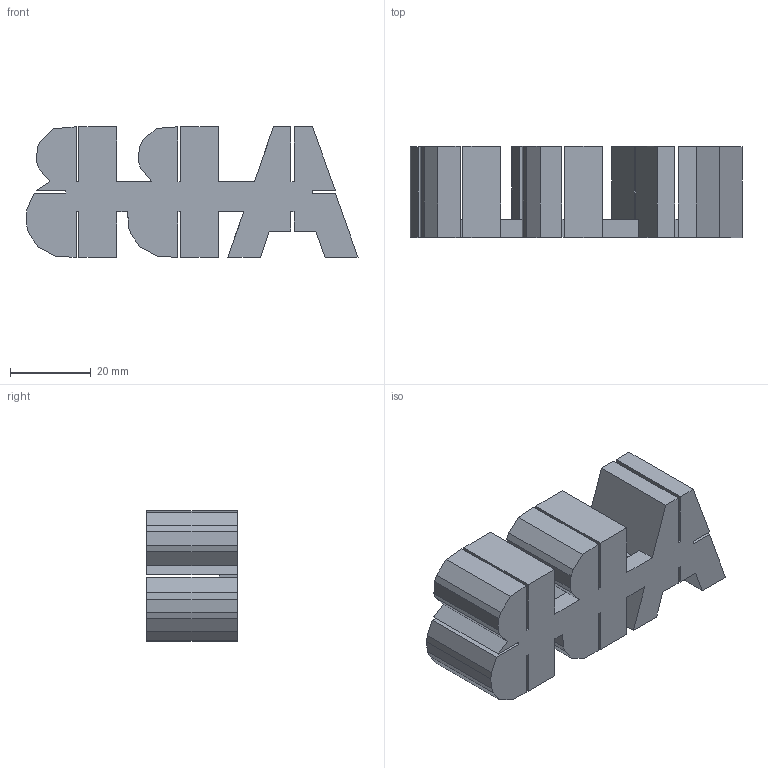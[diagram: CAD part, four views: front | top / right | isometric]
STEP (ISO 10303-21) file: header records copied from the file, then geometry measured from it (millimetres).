
FILE_DESCRIPTION (( 'STEP AP214' ), '1' );
FILE_NAME ('IRB4400_60-195_IRC5_rev02_LOGO05_CAD.STEP', '2016-11-03T06:48:55', ( 'ABB' ), ( 'ABB' ), 'SwSTEP 2.0', 'SolidWorks 2014', '' );
FILE_SCHEMA (( 'AUTOMOTIVE_DESIGN' ));
Length unit declared in the file: millimetre
Products named in the file (1): IRB4400_60-195_IRC5_rev02_LOGO05_CAD
Bounding box: 82.2 x 22.5 x 32.32 mm (x, y, z)
Volume: 39909.7 mm3; surface area: 16948 mm2
Topology: 1 solids, 1 shells, 104 faces, 299 edges, 197 vertices
Faces by surface type: plane 104
Entity records: 3361 total; most frequent: CARTESIAN_POINT 601, ORIENTED_EDGE 598, DIRECTION 509, VECTOR 299, LINE 299, EDGE_CURVE 299, VERTEX_POINT 197, AXIS2_PLACEMENT_3D 105
